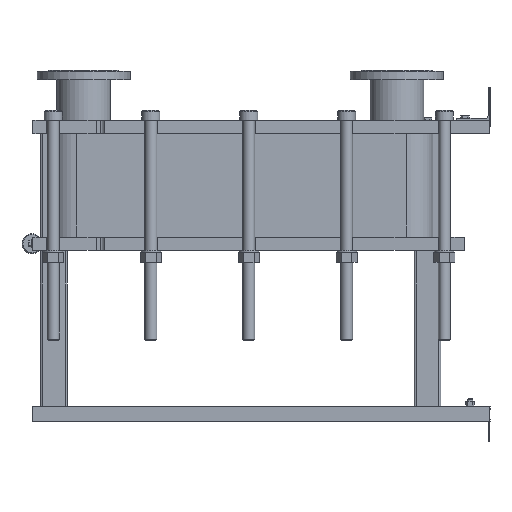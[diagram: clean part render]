
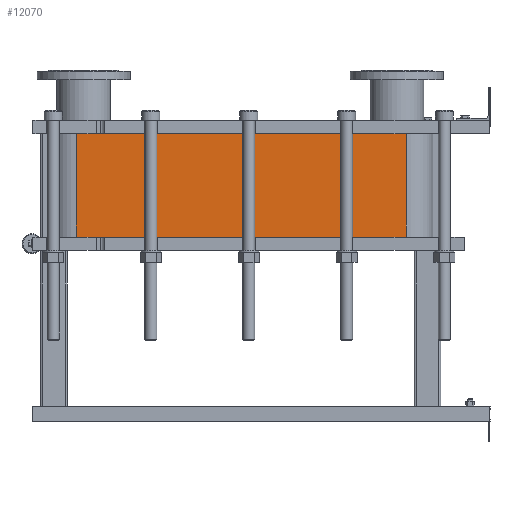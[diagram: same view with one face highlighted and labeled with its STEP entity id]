
A CAD part, left-side view. The second image highlights one B-rep face of the part: STEP entity #12070.
In plain terms, the highlighted planar face has unit normal (-1, 0, 0).
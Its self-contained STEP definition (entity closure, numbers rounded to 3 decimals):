
#1064=LINE('',#21140,#2164);
#1065=LINE('',#21144,#2165);
#1066=LINE('',#21146,#2166);
#1067=LINE('',#21147,#2167);
#2164=VECTOR('',#15790,10.);
#2165=VECTOR('',#15795,10.);
#2166=VECTOR('',#15796,10.);
#2167=VECTOR('',#15797,10.);
#3304=FACE_OUTER_BOUND('',#4091,.T.);
#4091=EDGE_LOOP('',(#9793,#9794,#9795,#9796));
#5677=VERTEX_POINT('',#21137);
#5678=VERTEX_POINT('',#21139);
#5679=VERTEX_POINT('',#21143);
#5680=VERTEX_POINT('',#21145);
#7118=EDGE_CURVE('',#5678,#5677,#1064,.T.);
#7120=EDGE_CURVE('',#5677,#5679,#1065,.T.);
#7121=EDGE_CURVE('',#5680,#5679,#1066,.T.);
#7122=EDGE_CURVE('',#5680,#5678,#1067,.T.);
#9793=ORIENTED_EDGE('',*,*,#7120,.T.);
#9794=ORIENTED_EDGE('',*,*,#7121,.F.);
#9795=ORIENTED_EDGE('',*,*,#7122,.T.);
#9796=ORIENTED_EDGE('',*,*,#7118,.T.);
#11441=PLANE('',#13191);
#12070=ADVANCED_FACE('',(#3304),#11441,.T.);
#13191=AXIS2_PLACEMENT_3D('',#21142,#15793,#15794);
#15790=DIRECTION('',(0.,0.,-1.));
#15793=DIRECTION('center_axis',(-1.,0.,0.));
#15794=DIRECTION('ref_axis',(0.,1.,0.));
#15795=DIRECTION('',(0.,-1.,0.));
#15796=DIRECTION('',(0.,0.,-1.));
#15797=DIRECTION('',(0.,1.,0.));
#21137=CARTESIAN_POINT('',(-248.152,1243.818,-310.5));
#21139=CARTESIAN_POINT('',(-248.152,1243.818,0.));
#21140=CARTESIAN_POINT('',(-248.152,1243.818,0.));
#21142=CARTESIAN_POINT('Origin',(-248.152,251.818,0.));
#21143=CARTESIAN_POINT('',(-248.152,251.818,-310.5));
#21144=CARTESIAN_POINT('',(-248.152,499.818,-310.5));
#21145=CARTESIAN_POINT('',(-248.152,251.818,0.));
#21146=CARTESIAN_POINT('',(-248.152,251.818,0.));
#21147=CARTESIAN_POINT('',(-248.152,251.818,0.));
